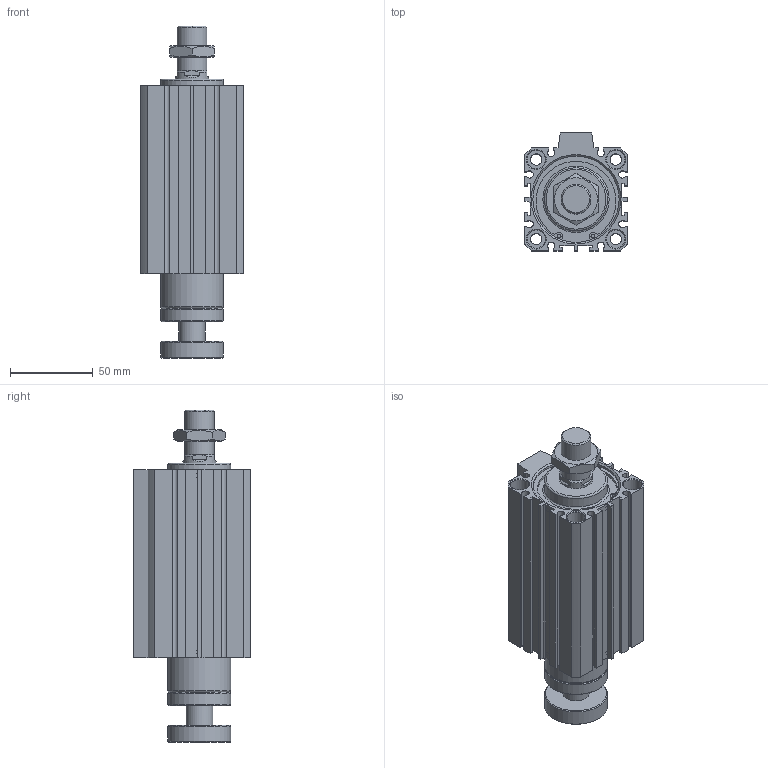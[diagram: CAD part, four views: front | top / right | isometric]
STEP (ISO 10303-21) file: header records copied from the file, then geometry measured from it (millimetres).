
FILE_DESCRIPTION((''),'2;1');
FILE_NAME('I:\3D電子目錄\氣缸\JDAR\JDAR-BS\JDAR50-BS\JDAR50x75-BS.stp','2007-05-05T14:20:38',('662F206'),(''),'Autodesk Inventor 11','Autodesk Inventor 11','');
FILE_SCHEMA(('AUTOMOTIVE_DESIGN { 1 0 10303 214 1 1 1 1 }'));
Length unit declared in the file: millimetre
Products named in the file (3): JDAR50-BS; R 形環 52
Assembly tree (3 placements, depth 2):
  JDAR50-BS
    JDAR50-BS
    R 形環 52  x2
Bounding box: 62 x 71 x 200.3 mm (x, y, z)
Volume: 450460.1 mm3; surface area: 80152.4 mm2
Topology: 3 solids, 3 shells, 204 faces, 493 edges, 321 vertices
Faces by surface type: plane 119, cylinder 56, cone 25, bspline 2, torus 2
Full cylindrical faces by diameter (mm): 2.3 x4, 2.7 x2, 6.8 x4, 11 x8, 16 x1, 18 x2, 20 x1, 38 x4, 52 x4, 55 x2
Entity records: 5422 total; most frequent: CARTESIAN_POINT 1023, DIRECTION 907, ORIENTED_EDGE 804, EDGE_CURVE 402, AXIS2_PLACEMENT_3D 329, VERTEX_POINT 295, EDGE_LOOP 285, VECTOR 249
